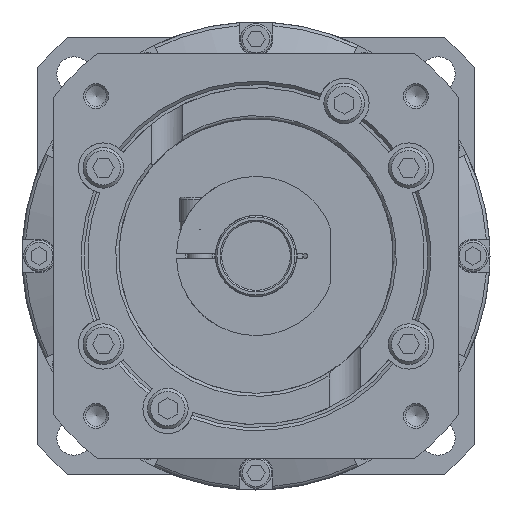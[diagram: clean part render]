
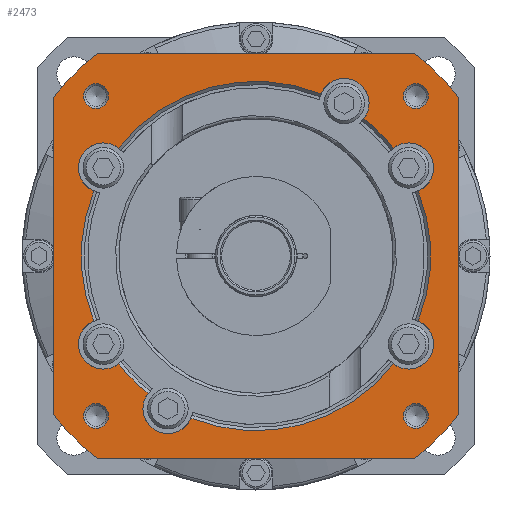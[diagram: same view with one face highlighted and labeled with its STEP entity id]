
A CAD part, left-side view. The second image highlights one B-rep face of the part: STEP entity #2473.
In plain terms, the highlighted planar face has unit normal (-1, 0, 0) as drawn and (0, 0, 1) by its records, which use the part's own axes.
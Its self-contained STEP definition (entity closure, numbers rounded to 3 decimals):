
#1817=FACE_BOUND('',#3493,.T.);
#1818=FACE_BOUND('',#3494,.T.);
#1819=FACE_BOUND('',#3495,.T.);
#1820=FACE_BOUND('',#3496,.T.);
#1821=FACE_BOUND('',#3497,.T.);
#1822=FACE_BOUND('',#3498,.T.);
#2094=CIRCLE('',#8688,8.);
#2098=CIRCLE('',#8693,8.);
#2102=CIRCLE('',#8698,8.);
#2109=CIRCLE('',#8706,8.);
#2113=CIRCLE('',#8711,8.);
#2116=CIRCLE('',#8715,8.);
#2124=CIRCLE('',#8730,4.);
#2127=CIRCLE('',#8736,4.);
#2130=CIRCLE('',#8742,4.);
#2133=CIRCLE('',#8748,4.);
#2138=CIRCLE('',#8756,56.);
#2140=CIRCLE('',#8759,82.5);
#2141=CIRCLE('',#8760,82.5);
#2142=CIRCLE('',#8761,82.5);
#2143=CIRCLE('',#8762,82.5);
#2144=CIRCLE('',#8763,56.);
#2145=CIRCLE('',#8764,56.);
#2146=CIRCLE('',#8765,56.);
#2147=CIRCLE('',#8766,56.);
#2148=CIRCLE('',#8767,56.);
#2473=ADVANCED_FACE('',(#1817,#1818,#1819,#1820,#1821,#1822),#2847,.T.);
#2847=PLANE('',#8768);
#3493=EDGE_LOOP('',(#4481,#4482,#4483,#4484,#4485,#4486,#4487,#4488));
#3494=EDGE_LOOP('',(#4489));
#3495=EDGE_LOOP('',(#4490));
#3496=EDGE_LOOP('',(#4491));
#3497=EDGE_LOOP('',(#4492));
#3498=EDGE_LOOP('',(#4493,#4494,#4495,#4496,#4497,#4498,#4499,#4500,#4501,
#4502,#4503,#4504));
#4481=ORIENTED_EDGE('',*,*,#6827,.T.);
#4482=ORIENTED_EDGE('',*,*,#6828,.T.);
#4483=ORIENTED_EDGE('',*,*,#6829,.T.);
#4484=ORIENTED_EDGE('',*,*,#6830,.T.);
#4485=ORIENTED_EDGE('',*,*,#6831,.T.);
#4486=ORIENTED_EDGE('',*,*,#6832,.T.);
#4487=ORIENTED_EDGE('',*,*,#6833,.T.);
#4488=ORIENTED_EDGE('',*,*,#6834,.T.);
#4489=ORIENTED_EDGE('',*,*,#6820,.T.);
#4490=ORIENTED_EDGE('',*,*,#6817,.T.);
#4491=ORIENTED_EDGE('',*,*,#6814,.T.);
#4492=ORIENTED_EDGE('',*,*,#6811,.T.);
#4493=ORIENTED_EDGE('',*,*,#6734,.F.);
#4494=ORIENTED_EDGE('',*,*,#6835,.T.);
#4495=ORIENTED_EDGE('',*,*,#6789,.F.);
#4496=ORIENTED_EDGE('',*,*,#6836,.T.);
#4497=ORIENTED_EDGE('',*,*,#6782,.F.);
#4498=ORIENTED_EDGE('',*,*,#6825,.T.);
#4499=ORIENTED_EDGE('',*,*,#6772,.F.);
#4500=ORIENTED_EDGE('',*,*,#6837,.T.);
#4501=ORIENTED_EDGE('',*,*,#6754,.F.);
#4502=ORIENTED_EDGE('',*,*,#6838,.T.);
#4503=ORIENTED_EDGE('',*,*,#6744,.F.);
#4504=ORIENTED_EDGE('',*,*,#6839,.T.);
#5986=VERTEX_POINT('',#11893);
#5987=VERTEX_POINT('',#11895);
#5996=VERTEX_POINT('',#11920);
#5997=VERTEX_POINT('',#11922);
#6006=VERTEX_POINT('',#11947);
#6007=VERTEX_POINT('',#11949);
#6015=VERTEX_POINT('',#11973);
#6024=VERTEX_POINT('',#11993);
#6025=VERTEX_POINT('',#12000);
#6034=VERTEX_POINT('',#12020);
#6041=VERTEX_POINT('',#12038);
#6042=VERTEX_POINT('',#12040);
#6064=VERTEX_POINT('',#12210);
#6068=VERTEX_POINT('',#12220);
#6072=VERTEX_POINT('',#12230);
#6076=VERTEX_POINT('',#12240);
#6077=VERTEX_POINT('',#12252);
#6078=VERTEX_POINT('',#12253);
#6079=VERTEX_POINT('',#12255);
#6080=VERTEX_POINT('',#12257);
#6081=VERTEX_POINT('',#12259);
#6082=VERTEX_POINT('',#12261);
#6083=VERTEX_POINT('',#12263);
#6084=VERTEX_POINT('',#12265);
#6734=EDGE_CURVE('',#5986,#5987,#2094,.T.);
#6744=EDGE_CURVE('',#5996,#5997,#2098,.T.);
#6754=EDGE_CURVE('',#6006,#6007,#2102,.T.);
#6772=EDGE_CURVE('',#6024,#6015,#2109,.T.);
#6782=EDGE_CURVE('',#6034,#6025,#2113,.T.);
#6789=EDGE_CURVE('',#6041,#6042,#2116,.T.);
#6811=EDGE_CURVE('',#6064,#6064,#2124,.T.);
#6814=EDGE_CURVE('',#6068,#6068,#2127,.T.);
#6817=EDGE_CURVE('',#6072,#6072,#2130,.T.);
#6820=EDGE_CURVE('',#6076,#6076,#2133,.T.);
#6825=EDGE_CURVE('',#6034,#6015,#2138,.T.);
#6827=EDGE_CURVE('',#6077,#6078,#2140,.T.);
#6828=EDGE_CURVE('',#6078,#6079,#7640,.T.);
#6829=EDGE_CURVE('',#6079,#6080,#2141,.T.);
#6830=EDGE_CURVE('',#6080,#6081,#7641,.T.);
#6831=EDGE_CURVE('',#6081,#6082,#2142,.T.);
#6832=EDGE_CURVE('',#6082,#6083,#7642,.T.);
#6833=EDGE_CURVE('',#6083,#6084,#2143,.T.);
#6834=EDGE_CURVE('',#6084,#6077,#7643,.T.);
#6835=EDGE_CURVE('',#5986,#6042,#2144,.T.);
#6836=EDGE_CURVE('',#6041,#6025,#2145,.T.);
#6837=EDGE_CURVE('',#6024,#6007,#2146,.T.);
#6838=EDGE_CURVE('',#6006,#5997,#2147,.T.);
#6839=EDGE_CURVE('',#5996,#5987,#2148,.T.);
#7640=LINE('',#12254,#8169);
#7641=LINE('',#12258,#8170);
#7642=LINE('',#12262,#8171);
#7643=LINE('',#12266,#8172);
#8169=VECTOR('',#9963,1.);
#8170=VECTOR('',#9966,1.);
#8171=VECTOR('',#9969,1.);
#8172=VECTOR('',#9972,1.);
#8688=AXIS2_PLACEMENT_3D('',#11894,#9791,#9792);
#8693=AXIS2_PLACEMENT_3D('',#11921,#9805,#9806);
#8698=AXIS2_PLACEMENT_3D('',#11948,#9819,#9820);
#8706=AXIS2_PLACEMENT_3D('',#11994,#9843,#9844);
#8711=AXIS2_PLACEMENT_3D('',#12021,#9857,#9858);
#8715=AXIS2_PLACEMENT_3D('',#12039,#9868,#9869);
#8730=AXIS2_PLACEMENT_3D('',#12209,#9903,#9904);
#8736=AXIS2_PLACEMENT_3D('',#12219,#9915,#9916);
#8742=AXIS2_PLACEMENT_3D('',#12229,#9927,#9928);
#8748=AXIS2_PLACEMENT_3D('',#12239,#9939,#9940);
#8756=AXIS2_PLACEMENT_3D('',#12248,#9955,#9956);
#8759=AXIS2_PLACEMENT_3D('',#12251,#9961,#9962);
#8760=AXIS2_PLACEMENT_3D('',#12256,#9964,#9965);
#8761=AXIS2_PLACEMENT_3D('',#12260,#9967,#9968);
#8762=AXIS2_PLACEMENT_3D('',#12264,#9970,#9971);
#8763=AXIS2_PLACEMENT_3D('',#12267,#9973,#9974);
#8764=AXIS2_PLACEMENT_3D('',#12268,#9975,#9976);
#8765=AXIS2_PLACEMENT_3D('',#12269,#9977,#9978);
#8766=AXIS2_PLACEMENT_3D('',#12270,#9979,#9980);
#8767=AXIS2_PLACEMENT_3D('',#12271,#9981,#9982);
#8768=AXIS2_PLACEMENT_3D('',#12272,#9983,#9984);
#9791=DIRECTION('',(0.,0.,1.));
#9792=DIRECTION('',(1.,0.,0.));
#9805=DIRECTION('',(0.,0.,1.));
#9806=DIRECTION('',(1.,0.,0.));
#9819=DIRECTION('',(0.,0.,1.));
#9820=DIRECTION('',(1.,0.,0.));
#9843=DIRECTION('',(0.,0.,1.));
#9844=DIRECTION('',(1.,0.,0.));
#9857=DIRECTION('',(0.,0.,1.));
#9858=DIRECTION('',(1.,0.,0.));
#9868=DIRECTION('',(0.,0.,1.));
#9869=DIRECTION('',(1.,0.,0.));
#9903=DIRECTION('',(0.,0.,-1.));
#9904=DIRECTION('',(-1.,0.,0.));
#9915=DIRECTION('',(0.,0.,-1.));
#9916=DIRECTION('',(-1.,0.,0.));
#9927=DIRECTION('',(0.,0.,-1.));
#9928=DIRECTION('',(-1.,0.,0.));
#9939=DIRECTION('',(0.,0.,-1.));
#9940=DIRECTION('',(-1.,0.,0.));
#9955=DIRECTION('',(0.,0.,-1.));
#9956=DIRECTION('',(-1.,0.,0.));
#9961=DIRECTION('',(0.,0.,1.));
#9962=DIRECTION('',(1.,0.,0.));
#9963=DIRECTION('',(0.,-1.,0.));
#9964=DIRECTION('',(0.,0.,1.));
#9965=DIRECTION('',(1.,0.,0.));
#9966=DIRECTION('',(1.,0.,0.));
#9967=DIRECTION('',(0.,0.,1.));
#9968=DIRECTION('',(1.,0.,0.));
#9969=DIRECTION('',(0.,1.,0.));
#9970=DIRECTION('',(0.,0.,1.));
#9971=DIRECTION('',(1.,0.,0.));
#9972=DIRECTION('',(-1.,0.,0.));
#9973=DIRECTION('',(0.,0.,-1.));
#9974=DIRECTION('',(-1.,0.,0.));
#9975=DIRECTION('',(0.,0.,-1.));
#9976=DIRECTION('',(-1.,0.,0.));
#9977=DIRECTION('',(0.,0.,-1.));
#9978=DIRECTION('',(-1.,0.,0.));
#9979=DIRECTION('',(0.,0.,-1.));
#9980=DIRECTION('',(-1.,0.,0.));
#9981=DIRECTION('',(0.,0.,-1.));
#9982=DIRECTION('',(-1.,0.,0.));
#9983=DIRECTION('',(0.,0.,1.));
#9984=DIRECTION('',(1.,0.,0.));
#11893=CARTESIAN_POINT('',(-20.851,51.973,0.));
#11894=CARTESIAN_POINT('',(-28.25,48.93,0.));
#11895=CARTESIAN_POINT('',(-34.585,44.044,0.));
#11920=CARTESIAN_POINT('',(-44.044,34.585,0.));
#11921=CARTESIAN_POINT('',(-48.93,28.25,0.));
#11922=CARTESIAN_POINT('',(-51.973,20.851,0.));
#11947=CARTESIAN_POINT('',(-34.585,-44.044,0.));
#11948=CARTESIAN_POINT('',(-28.25,-48.93,0.));
#11949=CARTESIAN_POINT('',(-20.851,-51.973,0.));
#11973=CARTESIAN_POINT('',(34.585,-44.044,0.));
#11993=CARTESIAN_POINT('',(20.851,-51.973,0.));
#11994=CARTESIAN_POINT('',(28.25,-48.93,0.));
#12000=CARTESIAN_POINT('',(51.973,-20.851,0.));
#12020=CARTESIAN_POINT('',(44.044,-34.585,0.));
#12021=CARTESIAN_POINT('',(48.93,-28.25,0.));
#12038=CARTESIAN_POINT('',(34.585,44.044,0.));
#12039=CARTESIAN_POINT('',(28.25,48.93,0.));
#12040=CARTESIAN_POINT('',(20.851,51.973,0.));
#12209=CARTESIAN_POINT('',(-51.265,51.265,0.));
#12210=CARTESIAN_POINT('',(-55.265,51.265,0.));
#12219=CARTESIAN_POINT('',(-51.265,-51.265,0.));
#12220=CARTESIAN_POINT('',(-55.265,-51.265,0.));
#12229=CARTESIAN_POINT('',(51.265,-51.265,0.));
#12230=CARTESIAN_POINT('',(47.265,-51.265,0.));
#12239=CARTESIAN_POINT('',(51.265,51.265,0.));
#12240=CARTESIAN_POINT('',(47.265,51.265,0.));
#12248=CARTESIAN_POINT('',(0.,0.,0.));
#12251=CARTESIAN_POINT('',(0.,0.,0.));
#12252=CARTESIAN_POINT('',(-50.806,65.,0.));
#12253=CARTESIAN_POINT('',(-65.,50.806,0.));
#12254=CARTESIAN_POINT('',(-65.,50.806,0.));
#12255=CARTESIAN_POINT('',(-65.,-50.806,0.));
#12256=CARTESIAN_POINT('',(0.,0.,
0.));
#12257=CARTESIAN_POINT('',(-50.806,-65.,0.));
#12258=CARTESIAN_POINT('',(-50.806,-65.,0.));
#12259=CARTESIAN_POINT('',(50.806,-65.,0.));
#12260=CARTESIAN_POINT('',(0.,0.,0.));
#12261=CARTESIAN_POINT('',(65.,-50.806,0.));
#12262=CARTESIAN_POINT('',(65.,-50.806,0.));
#12263=CARTESIAN_POINT('',(65.,50.806,0.));
#12264=CARTESIAN_POINT('',(0.,0.,
0.));
#12265=CARTESIAN_POINT('',(50.806,65.,0.));
#12266=CARTESIAN_POINT('',(50.806,65.,0.));
#12267=CARTESIAN_POINT('',(0.,0.,0.));
#12268=CARTESIAN_POINT('',(0.,0.,0.));
#12269=CARTESIAN_POINT('',(0.,0.,0.));
#12270=CARTESIAN_POINT('',(0.,0.,0.));
#12271=CARTESIAN_POINT('',(0.,0.,0.));
#12272=CARTESIAN_POINT('',(0.,0.,0.));
